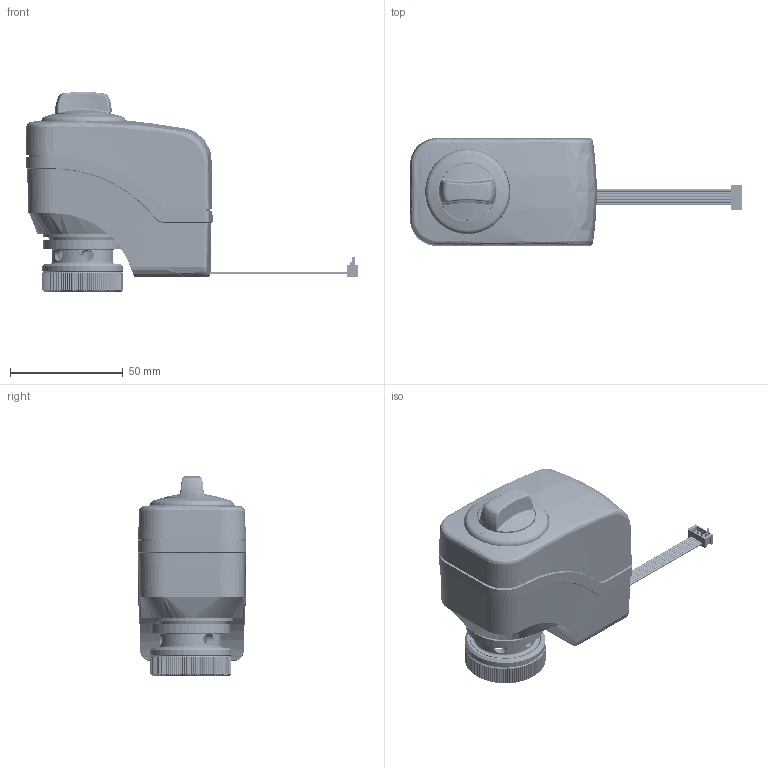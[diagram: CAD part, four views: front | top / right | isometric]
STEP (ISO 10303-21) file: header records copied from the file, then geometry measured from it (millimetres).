
FILE_DESCRIPTION(/* description */ (''),/* implementation_level */ '2;1');
FILE_NAME(/* name */ 'SSY319.step',/* time_stamp */ '2016-02-17T09:40:53+08:00',/* author */ (''),/* organization */ (''),/* preprocessor_version */ 'ST-DEVELOPER v15',/* originating_system */ 'SIEMENS PLM Software NX 8.5',/* authorisation */ '');
FILE_SCHEMA (('AUTOMOTIVE_DESIGN { 1 0 10303 214 3 1 1 1 }'));
Products named in the file (55): HUD-000881_0; HUD-000884_0; 426355110_G; 423255040_F; 423255050_E; 419655450_B; 417555070_D; 419655440_D; 422456070_D; 7419600120_D; 7416100150_F; HUD-000272_0; HUD-000143_00; 7417800170_E; 7417800160_C; HUD-000765_0A; HUD-000642_A; HUD-000574_A; HUD-000641_A; HUD-000491_A; 421755230_H; HUD-000855_0; HUD-000857_0; 423955970_B; 420155630_A; 411755170_G; 422456010_B; 423955980_B; 418223380_A; HUD-000576_A; 425055430_B; 425055450_B; 425055460_B; 423956000_C; 423955990_C; 425055470_B; 419055330_E; 411755160_H; 417856960_B; HUD-000799_B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
Assembly tree (65 placements, depth 4):
  173365709_Q
    HUD-000133_D
    HUD-000724_B_SOLID
      423956010_G_SOLID
        422456070_D
        419655440_D
        417555070_D
        419655450_B
        423255050_E
        423255040_F
      411755160_H
      419055330_E
      425055470_B
      423955990_C
      423956000_C
      425055460_B
      425055450_B
      425055430_B  x2
      HUD-000576_A
      418223380_A  x5
      423955980_B
      422456010_B
      411755170_G
      420155630_A
      423955970_B
      HUD-000857_0
      HUD-000855_0
      426355170_A_SOLID
        426355110_G
        425055450_B
      421755230_H
    HUD-000764_C1_SOLID
      HUD-000491_A  x2
      HUD-000641_A
      HUD-000574_A
      HUD-000642_A
      HUD-000341_0
        HUD-000884_0
        HUD-000881_0  x3
      HUD-000765_0A
    426855410_E
      7417800160_C
      7417800170_E
    426355100_D
    421555580_B
    HUD-000940_00  x2
    411656060_C
    411555150_B_SOLID
      HUD-000143_00
      HUD-000272_0  x2
    HUD-000800_B
    HUD-000799_B
    417856960_B
    7419600130_C
      7416100150_F
      7419600120_D
Bounding box: 147.53 x 48 x 89.16 mm (x, y, z)
Volume: 105992.8 mm3; surface area: 127592.8 mm2
Topology: 65 solids, 69 shells, 5667 faces, 16628 edges, 12113 vertices
Faces by surface type: plane 3284, cylinder 1567, bspline 270, cone 239, extrusion 179, torus 103, sphere 25
Full cylindrical faces by diameter (mm): 0.1 x2, 0.2 x2, 0.5 x2, 0.6 x2, 0.85 x4, 1 x4, 1.4 x1, 1.5 x19, 1.6 x4, 1.9 x1, 1.97 x1, 1.98 x2, 2 x15, 2.2 x4, 2.3 x7, 2.4 x3, 2.45 x4, 2.5 x4, 2.56 x1, 2.6 x5, 2.8 x2, 3 x12, 3.1 x1, 3.2 x5, 3.5 x2, 3.7 x1, 4 x7, 4.2 x8, 4.4 x1, 5 x6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
Entity records: 217110 total; most frequent: CARTESIAN_POINT 72592, ORIENTED_EDGE 29162, DIRECTION 27285, EDGE_CURVE 14581, VERTEX_POINT 9769, VECTOR 9559, LINE 9380, AXIS2_PLACEMENT_3D 8863
